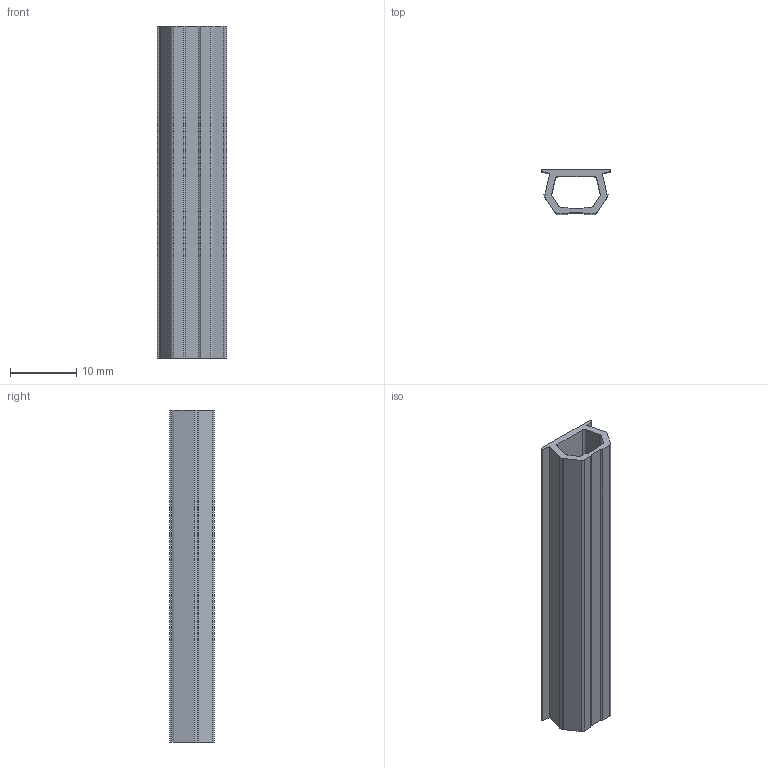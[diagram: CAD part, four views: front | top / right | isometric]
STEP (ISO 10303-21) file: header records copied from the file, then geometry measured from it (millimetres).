
FILE_DESCRIPTION(/* description */ (''),/* implementation_level */ '2;1');
FILE_NAME(/* name */ 'D:\cadd\new~產品型錄\配件\8系列\AMF-08A.stp',/* time_stamp */ '2016-12-09T14:23:58+08:00',/* author */ ('Owner'),/* organization */ (''),/* preprocessor_version */ 'ST-DEVELOPER v15.2',/* originating_system */ 'Autodesk Inventor 2014',/* authorisation */ '');
FILE_SCHEMA (('AUTOMOTIVE_DESIGN { 1 0 10303 214 3 1 1 }'));
Length unit declared in the file: millimetre
Products named in the file (1): AMF-08A
Bounding box: 10.5 x 6.7 x 50 mm (x, y, z)
Volume: 1262.7 mm3; surface area: 2781.7 mm2
Topology: 1 solids, 1 shells, 42 faces, 120 edges, 80 vertices
Faces by surface type: plane 30, cylinder 12
Entity records: 1393 total; most frequent: CARTESIAN_POINT 243, ORIENTED_EDGE 240, DIRECTION 230, EDGE_CURVE 120, LINE 96, VECTOR 96, VERTEX_POINT 80, AXIS2_PLACEMENT_3D 67
